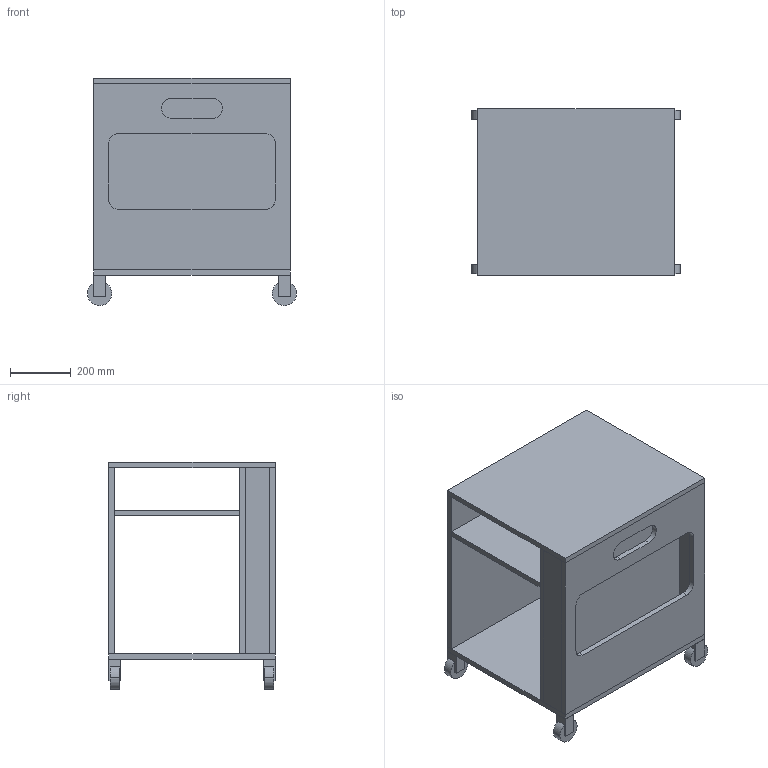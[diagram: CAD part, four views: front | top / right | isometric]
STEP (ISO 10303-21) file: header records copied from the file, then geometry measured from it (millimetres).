
FILE_DESCRIPTION(/* description */ (''),/* implementation_level */ '2;1');
FILE_NAME(/* name */ 'meuble couture',/* time_stamp */ '2022-10-03T22:52:53+02:00',/* author */ (''),/* organization */ (''),/* preprocessor_version */ 'ST-DEVELOPER v16.5',/* originating_system */ '',/* authorisation */ '');
FILE_SCHEMA (('AUTOMOTIVE_DESIGN'));
Length unit declared in the file: millimetre
Products named in the file (1): Document
Bounding box: 690 x 550 x 749.95 mm (x, y, z)
Volume: 39214439.2 mm3; surface area: 4705844.7 mm2
Topology: 12 solids, 12 shells, 104 faces, 240 edges, 160 vertices
Faces by surface type: plane 84, bspline 20
Entity records: 2709 total; most frequent: CARTESIAN_POINT 983, ORIENTED_EDGE 480, EDGE_CURVE 240, B_SPLINE_CURVE_WITH_KNOTS 189, VERTEX_POINT 160, EDGE_LOOP 108, ADVANCED_FACE 104, FACE_OUTER_BOUND 104
